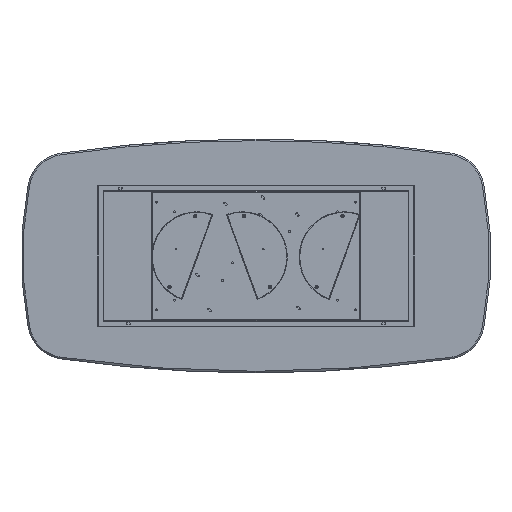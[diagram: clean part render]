
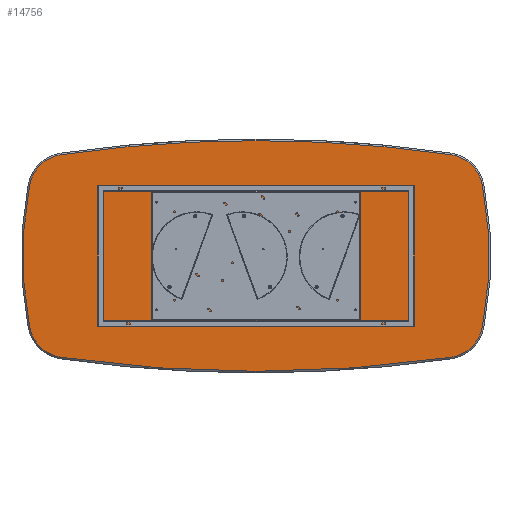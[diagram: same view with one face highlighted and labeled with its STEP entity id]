
A CAD part, front view. The second image highlights one B-rep face of the part: STEP entity #14756.
In plain terms, the highlighted planar face has unit normal (0, -1, 0).
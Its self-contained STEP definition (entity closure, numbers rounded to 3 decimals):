
#795 = VERTEX_POINT ( 'NONE', #14348 ) ;
#887 = EDGE_CURVE ( 'NONE', #5610, #19179, #12238, .T. ) ;
#1436 = CARTESIAN_POINT ( 'NONE',  ( -963.472, 0., -325.885 ) ) ;
#1556 = ORIENTED_EDGE ( 'NONE', *, *, #4679, .T. ) ;
#1712 = VERTEX_POINT ( 'NONE', #17311 ) ;
#1780 = ORIENTED_EDGE ( 'NONE', *, *, #17078, .T. ) ;
#1945 = ORIENTED_EDGE ( 'NONE', *, *, #15591, .T. ) ;
#1948 = DIRECTION ( 'NONE',  ( 0., 1., 0. ) ) ;
#2014 = CIRCLE ( 'NONE', #7029, 1892. ) ;
#2135 = VERTEX_POINT ( 'NONE', #4074 ) ;
#2366 = DIRECTION ( 'NONE',  ( 0., 0., 1. ) ) ;
#2400 = AXIS2_PLACEMENT_3D ( 'NONE', #8236, #15376, #18603 ) ;
#2914 = DIRECTION ( 'NONE',  ( 0., 0., 1. ) ) ;
#3247 = ORIENTED_EDGE ( 'NONE', *, *, #14531, .T. ) ;
#3364 = AXIS2_PLACEMENT_3D ( 'NONE', #4261, #13508, #9039 ) ;
#3832 = DIRECTION ( 'NONE',  ( 0., -1., 0. ) ) ;
#4074 = CARTESIAN_POINT ( 'NONE',  ( -990.878, 0., 515.919 ) ) ;
#4195 = DIRECTION ( 'NONE',  ( 0., 0., 1. ) ) ;
#4210 = CIRCLE ( 'NONE', #6085, 6942. ) ;
#4261 = CARTESIAN_POINT ( 'NONE',  ( -705., 0., 0. ) ) ;
#4679 = EDGE_CURVE ( 'NONE', #2135, #9600, #8368, .T. ) ;
#4819 = CARTESIAN_POINT ( 'NONE',  ( -1151.911, 0., 362.691 ) ) ;
#5153 = CARTESIAN_POINT ( 'NONE',  ( 0., 0., 6355. ) ) ;
#5189 = CARTESIAN_POINT ( 'NONE',  ( -990.878, 0., -515.919 ) ) ;
#5519 = ORIENTED_EDGE ( 'NONE', *, *, #887, .T. ) ;
#5528 = EDGE_CURVE ( 'NONE', #19179, #15255, #8363, .T. ) ;
#5610 = VERTEX_POINT ( 'NONE', #5189 ) ;
#6085 = AXIS2_PLACEMENT_3D ( 'NONE', #17236, #3832, #2366 ) ;
#6808 = CIRCLE ( 'NONE', #3364, 1892. ) ;
#6814 = ORIENTED_EDGE ( 'NONE', *, *, #15065, .T. ) ;
#7029 = AXIS2_PLACEMENT_3D ( 'NONE', #16491, #13360, #17962 ) ;
#7327 = CARTESIAN_POINT ( 'NONE',  ( 963.472, 0., 325.885 ) ) ;
#7658 = AXIS2_PLACEMENT_3D ( 'NONE', #16635, #1948, #13594 ) ;
#7885 = CARTESIAN_POINT ( 'NONE',  ( 990.878, 0., 515.919 ) ) ;
#8170 = DIRECTION ( 'NONE',  ( 0., 0., 1. ) ) ;
#8204 = CARTESIAN_POINT ( 'NONE',  ( -963.472, 0., 325.885 ) ) ;
#8236 = CARTESIAN_POINT ( 'NONE',  ( 963.472, 0., -325.885 ) ) ;
#8363 = CIRCLE ( 'NONE', #2400, 192. ) ;
#8368 = CIRCLE ( 'NONE', #10246, 192. ) ;
#8488 = EDGE_CURVE ( 'NONE', #795, #5610, #15163, .T. ) ;
#8560 = DIRECTION ( 'NONE',  ( 0., -1., 0. ) ) ;
#8630 = ORIENTED_EDGE ( 'NONE', *, *, #18593, .T. ) ;
#9039 = DIRECTION ( 'NONE',  ( 0., 0., 1. ) ) ;
#9193 = DIRECTION ( 'NONE',  ( 0., -1., 0. ) ) ;
#9412 = FACE_OUTER_BOUND ( 'NONE', #10716, .T. ) ;
#9600 = VERTEX_POINT ( 'NONE', #4819 ) ;
#9649 = CARTESIAN_POINT ( 'NONE',  ( 0., 0., -6355. ) ) ;
#10091 = DIRECTION ( 'NONE',  ( 0., -1., 0. ) ) ;
#10246 = AXIS2_PLACEMENT_3D ( 'NONE', #8204, #12976, #18949 ) ;
#10716 = EDGE_LOOP ( 'NONE', ( #10769, #5519, #12231, #8630, #6814, #1780, #3247, #1556, #1945 ) ) ;
#10769 = ORIENTED_EDGE ( 'NONE', *, *, #8488, .T. ) ;
#11112 = AXIS2_PLACEMENT_3D ( 'NONE', #1436, #9193, #2914 ) ;
#11140 = DIRECTION ( 'NONE',  ( 0., -1., 0. ) ) ;
#11143 = CIRCLE ( 'NONE', #12690, 6942. ) ;
#12040 = PLANE ( 'NONE',  #7658 ) ;
#12231 = ORIENTED_EDGE ( 'NONE', *, *, #5528, .T. ) ;
#12238 = CIRCLE ( 'NONE', #13794, 6942. ) ;
#12493 = VERTEX_POINT ( 'NONE', #7885 ) ;
#12690 = AXIS2_PLACEMENT_3D ( 'NONE', #9649, #8560, #8170 ) ;
#12976 = DIRECTION ( 'NONE',  ( 0., -1., 0. ) ) ;
#13360 = DIRECTION ( 'NONE',  ( 0., -1., 0. ) ) ;
#13508 = DIRECTION ( 'NONE',  ( 0., -1., 0. ) ) ;
#13527 = VERTEX_POINT ( 'NONE', #15850 ) ;
#13594 = DIRECTION ( 'NONE',  ( 0., 0., 1. ) ) ;
#13794 = AXIS2_PLACEMENT_3D ( 'NONE', #5153, #11140, #17097 ) ;
#14234 = AXIS2_PLACEMENT_3D ( 'NONE', #7327, #10091, #4195 ) ;
#14348 = CARTESIAN_POINT ( 'NONE',  ( -1151.911, 0., -362.691 ) ) ;
#14531 = EDGE_CURVE ( 'NONE', #1712, #2135, #4210, .T. ) ;
#14756 = ADVANCED_FACE ( 'NONE', ( #9412 ), #12040, .F. ) ;
#15065 = EDGE_CURVE ( 'NONE', #13527, #12493, #17664, .T. ) ;
#15163 = CIRCLE ( 'NONE', #11112, 192. ) ;
#15255 = VERTEX_POINT ( 'NONE', #16908 ) ;
#15376 = DIRECTION ( 'NONE',  ( 0., -1., 0. ) ) ;
#15591 = EDGE_CURVE ( 'NONE', #9600, #795, #2014, .T. ) ;
#15850 = CARTESIAN_POINT ( 'NONE',  ( 1151.911, 0., 362.691 ) ) ;
#16491 = CARTESIAN_POINT ( 'NONE',  ( 705., 0., 0. ) ) ;
#16531 = CARTESIAN_POINT ( 'NONE',  ( 990.878, 0., -515.919 ) ) ;
#16635 = CARTESIAN_POINT ( 'NONE',  ( -352.5, 0., 3177.5 ) ) ;
#16908 = CARTESIAN_POINT ( 'NONE',  ( 1151.911, 0., -362.691 ) ) ;
#17078 = EDGE_CURVE ( 'NONE', #12493, #1712, #11143, .T. ) ;
#17097 = DIRECTION ( 'NONE',  ( 0., 0., 1. ) ) ;
#17236 = CARTESIAN_POINT ( 'NONE',  ( 0., 0., -6355. ) ) ;
#17311 = CARTESIAN_POINT ( 'NONE',  ( 0., 0., 587. ) ) ;
#17664 = CIRCLE ( 'NONE', #14234, 192. ) ;
#17962 = DIRECTION ( 'NONE',  ( 0., 0., 1. ) ) ;
#18593 = EDGE_CURVE ( 'NONE', #15255, #13527, #6808, .T. ) ;
#18603 = DIRECTION ( 'NONE',  ( 0., 0., 1. ) ) ;
#18949 = DIRECTION ( 'NONE',  ( 0., 0., 1. ) ) ;
#19179 = VERTEX_POINT ( 'NONE', #16531 ) ;
